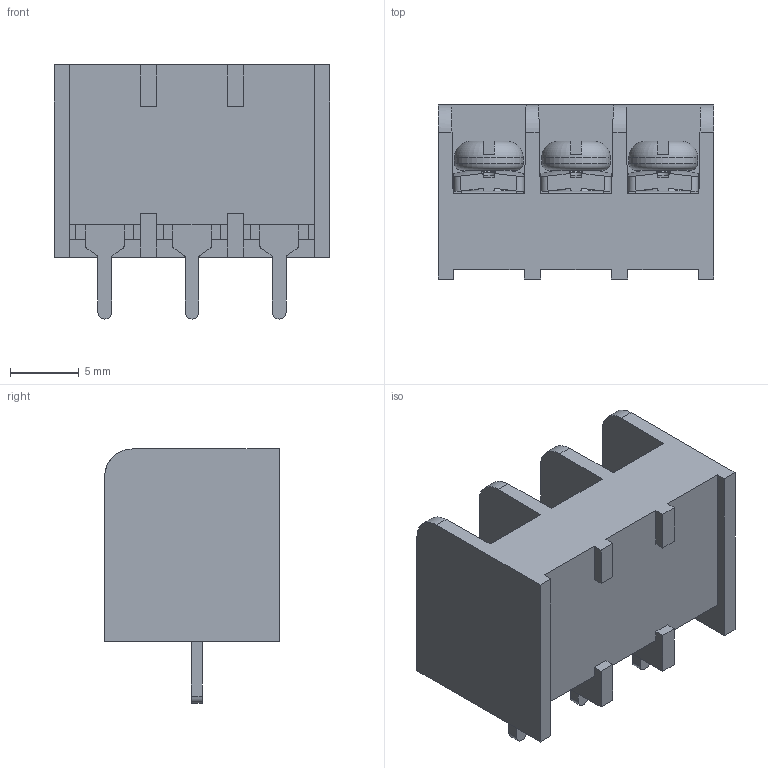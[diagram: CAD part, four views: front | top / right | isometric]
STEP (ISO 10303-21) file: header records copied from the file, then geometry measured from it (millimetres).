
FILE_DESCRIPTION((''),'2;1');
FILE_NAME('3PIN','2021-04-15T',('hanke'),(''),'CREO PARAMETRIC BY PTC INC, 2016260','CREO PARAMETRIC BY PTC INC, 2016260','');
FILE_SCHEMA(('CONFIG_CONTROL_DESIGN'));
Length unit declared in the file: millimetre
Products named in the file (1): 3PIN
Bounding box: 20.05 x 12.7 x 18.5 mm (x, y, z)
Volume: 2106.5 mm3; surface area: 2580.5 mm2
Topology: 1 solids, 1 shells, 622 faces, 1878 edges, 1228 vertices
Faces by surface type: plane 396, cylinder 88, bspline 84, torus 42, cone 12
Entity records: 27605 total; most frequent: CARTESIAN_POINT 11991, ORIENTED_EDGE 3744, DIRECTION 2593, EDGE_CURVE 1872, VERTEX_POINT 1228, VECTOR 973, LINE 973, AXIS2_PLACEMENT_3D 810
